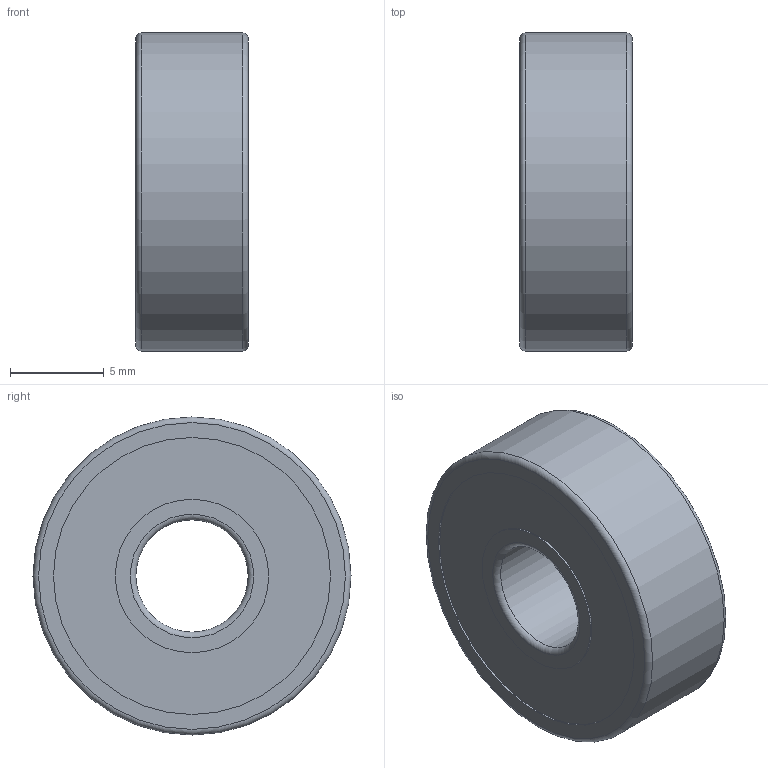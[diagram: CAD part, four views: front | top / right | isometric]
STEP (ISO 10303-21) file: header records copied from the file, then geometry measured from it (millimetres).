
FILE_DESCRIPTION(('FreeCAD Model'),'2;1');
FILE_NAME('Open CASCADE Shape Model','2021-04-30T15:03:13',(''),(''), 'Open CASCADE STEP processor 7.5','FreeCAD','Unknown');
FILE_SCHEMA(('AUTOMOTIVE_DESIGN { 1 0 10303 214 1 1 1 1 }'));
Length unit declared in the file: millimetre
Products named in the file (6): 606ZZ; _606ZZ Outer Ring; _606ZZ Inner Ring; _606ZZ Shield1; _606ZZ Ball; _606ZZ Shield2
Assembly tree (12 placements, depth 2):
  606ZZ
    _606ZZ Outer Ring
    _606ZZ Inner Ring
    _606ZZ Shield1
    _606ZZ Ball  x8
    _606ZZ Shield2
Bounding box: 6 x 17 x 17 mm (x, y, z)
Volume: 816 mm3; surface area: 1882.1 mm2
Topology: 12 solids, 12 shells, 40 faces, 76 edges, 48 vertices
Faces by surface type: cylinder 14, plane 12, sphere 8, torus 6
Full cylindrical faces by diameter (mm): 6 x1, 8.2 x4, 8.92 x2, 13.75 x2, 14.8 x4, 17 x1
Entity records: 1770 total; most frequent: CARTESIAN_POINT 357, DIRECTION 248, ORIENTED_EDGE 104, PCURVE 104, DEFINITIONAL_REPRESENTATION 104, LINE 80, VECTOR 80, AXIS2_PLACEMENT_3D 78
